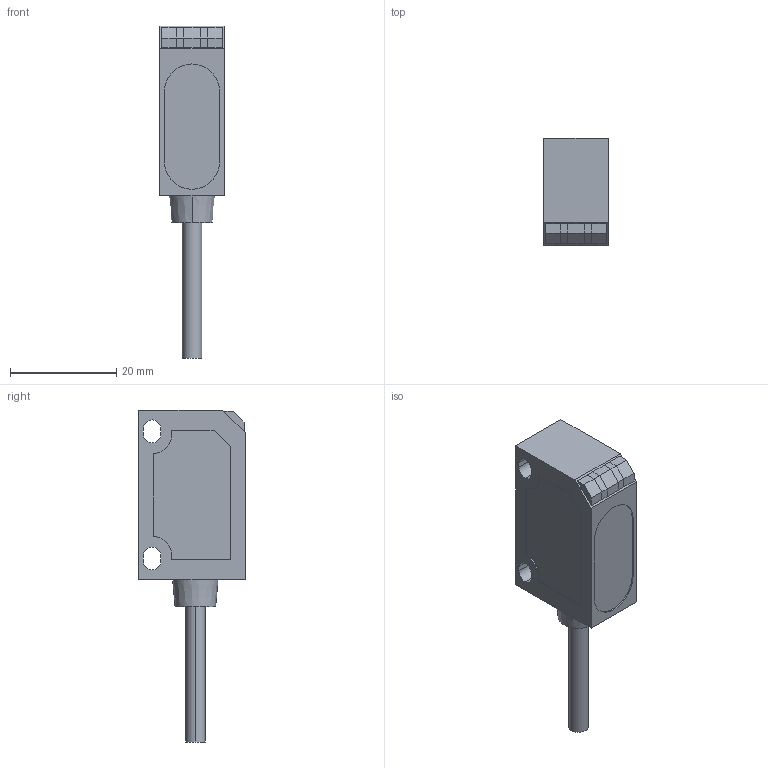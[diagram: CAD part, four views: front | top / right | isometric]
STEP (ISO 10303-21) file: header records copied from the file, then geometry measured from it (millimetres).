
FILE_DESCRIPTION (( 'STEP AP203' ), '1' );
FILE_NAME ('90-28292-003.STEP', '2013-02-16T18:26:52', ( 'Sam' ), ( 'Spade' ), 'SwSTEP 2.0', 'SolidWorks 2002296', '' );
FILE_SCHEMA (( 'CONFIG_CONTROL_DESIGN' ));
Length unit declared in the file: inch
Products named in the file (7): 90-28292-003; Imported23; Imported25; Imported24; Imported27; Imported26; Imported22
Assembly tree (6 placements, depth 2):
  90-28292-003
    Imported26
    Imported27
    Imported23
    Imported25
    Imported24
    Imported22
Bounding box: 12.06 x 20.07 x 62.41 mm (x, y, z)
Volume: 7811 mm3; surface area: 4115.2 mm2
Topology: 8 solids, 8 shells, 88 faces, 204 edges, 136 vertices
Faces by surface type: plane 68, cylinder 18, cone 2
Entity records: 3247 total; most frequent: DIRECTION 438, CARTESIAN_POINT 437, ORIENTED_EDGE 408, EDGE_CURVE 204, LINE 164, VECTOR 164, AXIS2_PLACEMENT_3D 137, VERTEX_POINT 136
